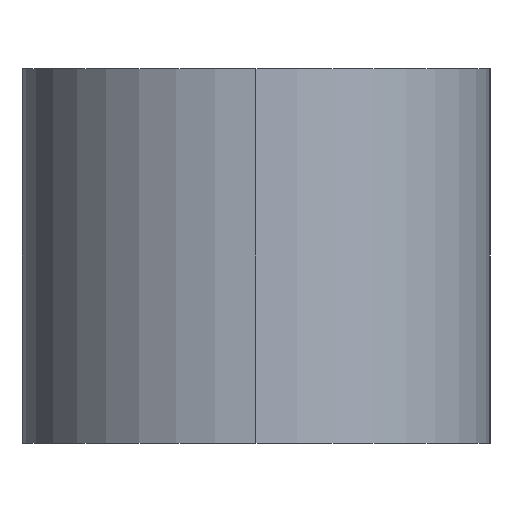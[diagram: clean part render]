
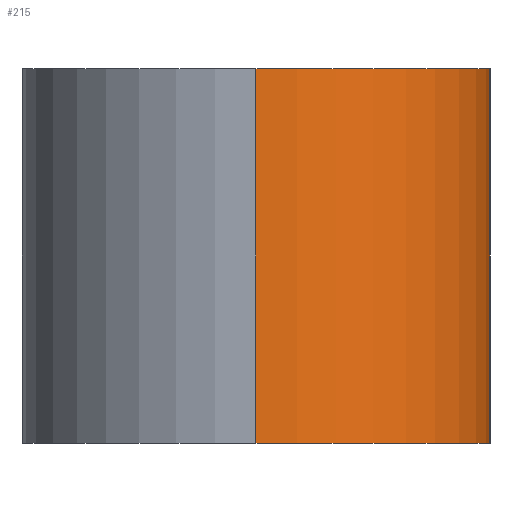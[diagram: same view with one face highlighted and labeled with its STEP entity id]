
A CAD part, left-side view. The second image highlights one B-rep face of the part: STEP entity #215.
In plain terms, the highlighted cylindrical face has radius 5 mm (diameter 10 mm), a partial arc.
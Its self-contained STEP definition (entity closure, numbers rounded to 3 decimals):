
#6 = CARTESIAN_POINT ( 'NONE',  ( -18., 0., 8. ) ) ;
#13 = LINE ( 'NONE', #160, #149 ) ;
#19 = EDGE_CURVE ( 'NONE', #175, #127, #13, .T. ) ;
#20 = CARTESIAN_POINT ( 'NONE',  ( -13., 0., 8. ) ) ;
#21 = DIRECTION ( 'NONE',  ( 0., 0., 1. ) ) ;
#22 = LINE ( 'NONE', #25, #35 ) ;
#25 = CARTESIAN_POINT ( 'NONE',  ( -18., 0., 8. ) ) ;
#26 = CARTESIAN_POINT ( 'NONE',  ( -13., -5., 8. ) ) ;
#27 = AXIS2_PLACEMENT_3D ( 'NONE', #20, #88, #74 ) ;
#35 = VECTOR ( 'NONE', #170, 1000. ) ;
#40 = ORIENTED_EDGE ( 'NONE', *, *, #187, .T. ) ;
#54 = DIRECTION ( 'NONE',  ( 1., 0., 0. ) ) ;
#74 = DIRECTION ( 'NONE',  ( 1., 0., 0. ) ) ;
#88 = DIRECTION ( 'NONE',  ( 0., 0., 1. ) ) ;
#100 = EDGE_CURVE ( 'NONE', #209, #168, #22, .T. ) ;
#125 = AXIS2_PLACEMENT_3D ( 'NONE', #174, #21, #54 ) ;
#127 = VERTEX_POINT ( 'NONE', #152 ) ;
#130 = CARTESIAN_POINT ( 'NONE',  ( -18., 0., 0. ) ) ;
#131 = ORIENTED_EDGE ( 'NONE', *, *, #19, .F. ) ;
#133 = EDGE_LOOP ( 'NONE', ( #165, #189, #40, #131 ) ) ;
#149 = VECTOR ( 'NONE', #154, 1000. ) ;
#150 = FACE_OUTER_BOUND ( 'NONE', #133, .T. ) ;
#152 = CARTESIAN_POINT ( 'NONE',  ( -13., -5., 0. ) ) ;
#154 = DIRECTION ( 'NONE',  ( 0., 0., -1. ) ) ;
#160 = CARTESIAN_POINT ( 'NONE',  ( -13., -5., 8. ) ) ;
#161 = AXIS2_PLACEMENT_3D ( 'NONE', #213, #218, #181 ) ;
#164 = CIRCLE ( 'NONE', #27, 5. ) ;
#165 = ORIENTED_EDGE ( 'NONE', *, *, #188, .F. ) ;
#168 = VERTEX_POINT ( 'NONE', #130 ) ;
#170 = DIRECTION ( 'NONE',  ( 0., 0., -1. ) ) ;
#174 = CARTESIAN_POINT ( 'NONE',  ( -13., 0., 0. ) ) ;
#175 = VERTEX_POINT ( 'NONE', #26 ) ;
#181 = DIRECTION ( 'NONE',  ( -1., 0., 0. ) ) ;
#187 = EDGE_CURVE ( 'NONE', #168, #127, #241, .T. ) ;
#188 = EDGE_CURVE ( 'NONE', #209, #175, #164, .T. ) ;
#189 = ORIENTED_EDGE ( 'NONE', *, *, #100, .T. ) ;
#209 = VERTEX_POINT ( 'NONE', #6 ) ;
#213 = CARTESIAN_POINT ( 'NONE',  ( -13., 0., 8. ) ) ;
#215 = ADVANCED_FACE ( 'NONE', ( #150 ), #232, .T. ) ;
#218 = DIRECTION ( 'NONE',  ( 0., 0., -1. ) ) ;
#232 = CYLINDRICAL_SURFACE ( 'NONE', #161, 5. ) ;
#241 = CIRCLE ( 'NONE', #125, 5. ) ;
